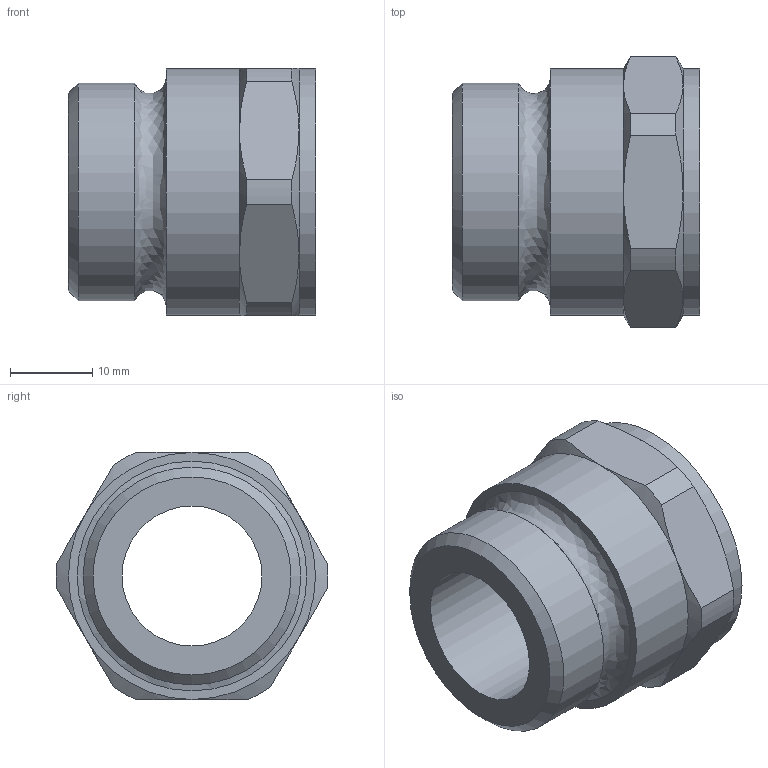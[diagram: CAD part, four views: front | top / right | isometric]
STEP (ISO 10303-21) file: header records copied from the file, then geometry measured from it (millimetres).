
FILE_DESCRIPTION((''),'2;1');
FILE_NAME('\\lg50001\SANHA_Legnica\Engineering\Public\RYSUNKI\SANHA POLSKA\4370G\step\14370g-34_34(1).stp','2012-02-29T15:13:28',('pajchrowski'),(''),'Autodesk Inventor 2009','Autodesk Inventor 2009','');
FILE_SCHEMA(('AUTOMOTIVE_DESIGN { 1 0 10303 214 1 1 1 1 }'));
Length unit declared in the file: millimetre
Products named in the file (1): 14370g-34_34(1)
Bounding box: 30 x 32.98 x 30 mm (x, y, z)
Volume: 8881.8 mm3; surface area: 5675.4 mm2
Topology: 1 solids, 1 shells, 36 faces, 81 edges, 49 vertices
Faces by surface type: cone 14, cylinder 11, plane 10, bspline 1
Full cylindrical faces by diameter (mm): 17 x1, 24.12 x1, 26.441 x1, 30 x2
Entity records: 1024 total; most frequent: CARTESIAN_POINT 283, DIRECTION 154, ORIENTED_EDGE 142, AXIS2_PLACEMENT_3D 71, EDGE_CURVE 71, EDGE_LOOP 48, VERTEX_POINT 47, FACE_OUTER_BOUND 36
